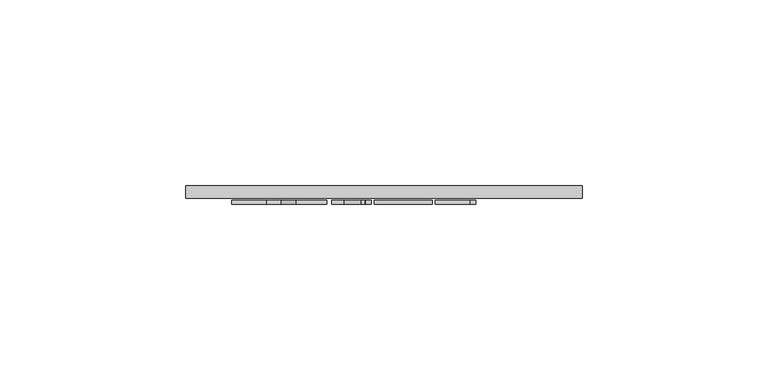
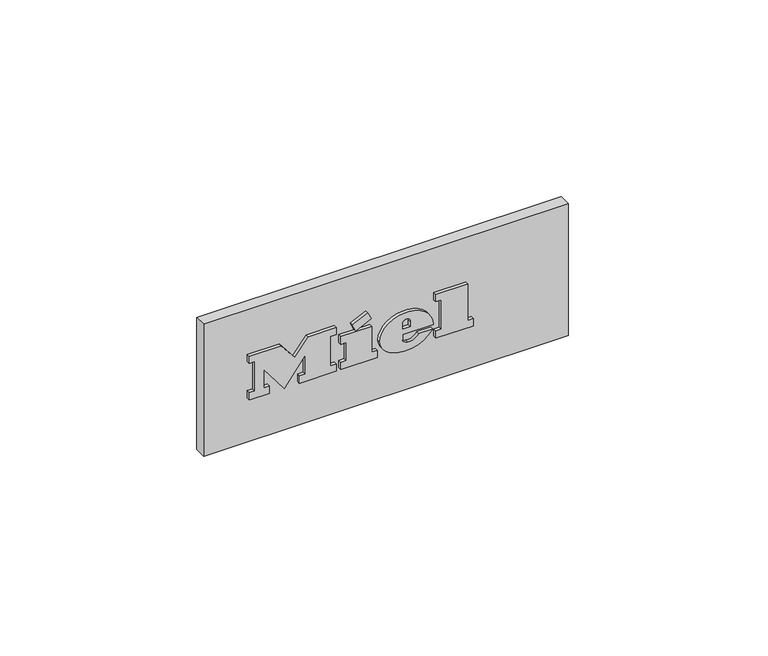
"""IFC4 building model written with IfcOpenShell, lengths in millimetres: proxy geometry, 12535250_USA_HR1432-3_EDST-CLST : 25143281_USA_12535250_HR1432-3_EDST-CLST."""

from ifc_helpers import new_model, si_unit, point, frame, frame_2d, origin, place, context, project, spatial, polyline, circle_curve, ellipse_curve, trimmed, segment, composite_curve, outline, extrude, source, transform, mapped, element, save
from ifc_brep_helpers import plane_surface, cylinder_surface, revolved_surface, extruded_surface, advanced_brep


def specialty_equipment_a4b074ec(model_context):
    return source(origin(), model_context, "Body", "SolidModel", [
        advanced_brep(
        [(3.9955, -675.0, 177.1995), (3.9955, -675.0, 178.563), (13.027, -675.0, 178.563), (-2.687, -675.0, 178.563), (1.0255, -675.0, 174.0), (12.7975, -675.0, 177.1995), (8.7205, -675.0, 177.1995), (5.5075, -675.0, 175.6875), (3.9955, -675.0, 180.291), (3.9955, -675.0, 181.7625), (6.304, -675.0, 181.7625), (6.304, -675.0, 180.291), (3.9955, -674.0, 177.1995), (5.5075, -674.0, 175.6875), (8.7205, -674.0, 177.1995), (12.7975, -674.0, 177.1995), (1.0255, -674.0, 174.0), (-2.687, -674.0, 178.563), (13.027, -674.0, 178.563), (3.9955, -674.0, 178.563), (3.9955, -674.0, 180.291), (6.304, -674.0, 180.291), (6.304, -674.0, 181.7625), (3.9955, -674.0, 181.7625)],
        [
            (0, 1),
            (1, 2),
            (2, 3, ellipse_curve(frame((5.17, -675.0, 178.563), z_axis=(0.0, -1.0, 0.0), x_axis=(-1.0, 0.0, 0.0)), 7.857, 6.4935)),
            (3, 4, circle_curve(frame((2.5375736, -675.0, 179.022), z_axis=(0.0, -1.0, 0.0), x_axis=(0.0, 0.0, -1.0)), 5.2446974)),
            (4, 5, circle_curve(frame((5.0127142, -675.0, 182.586), z_axis=(0.0, -1.0, 0.0), x_axis=(0.0, 0.0, -1.0)), 9.46664)),
            (5, 6),
            (6, 7, circle_curve(frame((6.1674118, -675.0, 178.455), z_axis=(0.0, 1.0, 0.0), x_axis=(0.0, 0.0, -1.0)), 2.8450905)),
            (7, 0, circle_curve(frame((5.5075, -675.0, 177.1995), z_axis=(0.0, 1.0, 0.0), x_axis=(0.0, 0.0, -1.0)), 1.512)),
            (8, 9),
            (9, 10, circle_curve(frame((5.14975, -675.0, 181.7625), z_axis=(0.0, 1.0, 0.0), x_axis=(0.0, 0.0, -1.0)), 1.15425)),
            (10, 11),
            (11, 8),
            (12, 13, circle_curve(frame((5.5075, -674.0, 177.1995), z_axis=(0.0, -1.0, 0.0), x_axis=(0.0, 0.0, -1.0)), 1.512)),
            (13, 14, circle_curve(frame((6.1674118, -674.0, 178.455), z_axis=(0.0, -1.0, 0.0), x_axis=(0.0, 0.0, -1.0)), 2.8450905)),
            (14, 15),
            (15, 16, circle_curve(frame((5.0127142, -674.0, 182.586), z_axis=(0.0, 1.0, 0.0), x_axis=(0.0, 0.0, -1.0)), 9.46664)),
            (16, 17, circle_curve(frame((2.5375736, -674.0, 179.022), z_axis=(0.0, 1.0, 0.0), x_axis=(0.0, 0.0, -1.0)), 5.2446974)),
            (17, 18, ellipse_curve(frame((5.17, -674.0, 178.563), z_axis=(0.0, 1.0, 0.0), x_axis=(-1.0, 0.0, 0.0)), 7.857, 6.4935)),
            (18, 19),
            (19, 12),
            (20, 21),
            (21, 22),
            (22, 23, circle_curve(frame((5.14975, -674.0, 181.7625), z_axis=(0.0, -1.0, 0.0), x_axis=(0.0, 0.0, -1.0)), 1.15425)),
            (23, 20),
            (0, 12),
            (19, 1),
            (18, 2),
            (5, 15),
            (14, 6),
            (17, 3),
            (13, 7),
            (16, 4),
            (8, 20),
            (23, 9),
            (22, 10),
            (21, 11),
        ],
        [
            plane_surface(frame((3.9955, -675.0, 178.563), z_axis=(0.0, -1.0, 0.0), x_axis=(0.0, 0.0, 1.0))),
            plane_surface(frame((3.9955, -674.0, 178.563), z_axis=(0.0, 1.0, 0.0), x_axis=(0.0, 0.0, -1.0))),
            plane_surface(frame((3.9955, -675.0, 177.1995), z_axis=(1.0, 0.0, 0.0), x_axis=(0.0, 1.0, 0.0))),
            plane_surface(frame((3.9955, -675.0, 178.563), z_axis=(0.0, 0.0, -1.0), x_axis=(0.0, 1.0, 0.0))),
            plane_surface(frame((12.7975, -675.0, 177.1995), z_axis=(0.0, 0.0, 1.0), x_axis=(0.0, 1.0, 0.0))),
            extruded_surface(trimmed(ellipse_curve(frame((5.17, -673.0, 178.563), z_axis=(0.0, -1.0, 0.0), x_axis=(-1.0, 0.0, 0.0)), 7.857, 6.4935), [point((13.027, -673.0, 178.563))], [point((-2.687, -673.0, 178.563))], True, "CARTESIAN"), (0.0, -1.0, 0.0), 1.0),
            revolved_surface(polyline([(6.1674118, -674.0, 175.60990950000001), (6.1674118, -675.0, 175.60990950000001)]), (6.1674118, -674.0, 178.455), (0.0, 1.0, 0.0)),
            revolved_surface(polyline([(5.5075, -674.0, 175.6875), (5.5075, -675.0, 175.6875)]), (5.5075, -674.0, 177.1995), (0.0, 1.0, 0.0)),
            cylinder_surface(frame((2.5375736, -674.0, 179.022), z_axis=(0.0, -1.0, 0.0), x_axis=(0.0, 0.0, -1.0)), 5.2446974),
            cylinder_surface(frame((5.0127142, -674.0, 182.586), z_axis=(0.0, -1.0, 0.0), x_axis=(0.0, 0.0, -1.0)), 9.46664),
            plane_surface(frame((3.9955, -675.0, 180.291), z_axis=(1.0, 0.0, 0.0), x_axis=(0.0, 1.0, 0.0))),
            revolved_surface(polyline([(5.14975, -674.0, 180.60825), (5.14975, -675.0, 180.60825)]), (5.14975, -674.0, 181.7625), (0.0, 1.0, 0.0)),
            plane_surface(frame((6.304, -675.0, 181.7625), z_axis=(-1.0, 0.0, 0.0), x_axis=(0.0, 1.0, 0.0))),
            plane_surface(frame((6.304, -675.0, 180.291), z_axis=(0.0, 0.0, 1.0), x_axis=(0.0, 1.0, 0.0))),
        ],
        [
            (0, [[1, 2, 3, 4, 5, 6, 7, 8], [9, 10, 11, 12]]),
            (1, [[13, 14, 15, 16, 17, 18, 19, 20], [21, 22, 23, 24]]),
            (2, [[-1, 25, -20, 26]]),
            (3, [[-2, -26, -19, 27]]),
            (4, [[-6, 28, -15, 29]]),
            (5, [[-3, -27, -18, 30]]),
            (6, [[-7, -29, -14, 31]]),
            (7, [[-8, -31, -13, -25]]),
            (8, [[-4, -30, -17, 32]]),
            (9, [[-5, -32, -16, -28]]),
            (10, [[-9, 33, -24, 34]]),
            (11, [[-10, -34, -23, 35]]),
            (12, [[-11, -35, -22, 36]]),
            (13, [[-12, -36, -21, -33]]),
        ],
    ),
        extrude(outline(polyline([(186.7035, -10.76), (184.5165, -9.734), (186.6495, -5.1575), (188.8365, -6.17), (186.7035, -10.76)])), frame((0.0, -675.0, 0.0), z_axis=(0.0, 1.0, 0.0), x_axis=(0.0, 0.0, 1.0)), (0.0, 0.0, 1.0), 1.0),
        extrude(outline(polyline([(184.2195, -14.0945), (181.803, -14.0945), (181.803, -12.488), (176.268, -12.488), (176.268, -14.0945), (174.0, -14.0945), (174.0, -3.443), (176.268, -3.443), (176.268, -5.009), (184.2195, -5.009), (184.2195, -14.0945)])), frame((0.0, -675.0, 0.0), z_axis=(0.0, 1.0, 0.0), x_axis=(0.0, 0.0, 1.0)), (0.0, 0.0, 1.0), 1.0),
        extrude(outline(polyline([(185.2995, 13.783), (185.2995, 15.403), (176.268, 15.403), (176.268, 13.783), (174.0, 13.783), (174.0, 24.7315), (176.268, 24.7315), (176.268, 23.071), (187.5, 23.071), (187.5, 13.783), (185.2995, 13.783)])), frame((0.0, -675.0, 0.0), z_axis=(0.0, 1.0, 0.0), x_axis=(0.0, 0.0, 1.0)), (0.0, 0.0, 1.0), 1.0),
        extrude(outline(polyline([(185.2995, -41.0), (185.2995, -39.3665), (176.268, -39.3665), (176.268, -41.0), (174.0, -41.0), (174.0, -35.06), (176.268, -35.06), (176.268, -36.68), (181.9756247, -36.68), (174.0, -30.6455), (182.2527223, -24.584), (176.268, -24.584), (176.268, -26.2445), (174.0, -26.2445), (174.0, -15.4715), (176.268, -15.4715), (176.268, -17.186), (185.2995, -17.186), (185.2995, -15.4715), (187.5, -15.4715), (187.5, -23.693), (182.4375, -27.635), (187.5, -31.5905), (187.5, -41.0), (185.2995, -41.0)])), frame((0.0, -675.0, 0.0), z_axis=(0.0, 1.0, 0.0), x_axis=(0.0, 0.0, 1.0)), (0.0, 0.0, 1.0), 1.0),
        extrude(outline(composite_curve([segment(polyline([(-670.0, 160.0), (-673.5, 160.0)]), True, "CONTINUOUS"), segment(trimmed(circle_curve(frame_2d((-464.0137328, 180.5)), 210.4869263), [point((-673.5, 160.0))], [point((-673.5, 201.0))], False, "CARTESIAN"), True, "CONTINUOUS"), segment(polyline([(-673.5, 201.0), (-670.0, 201.0), (-670.0, 160.0)]), True, "CONTINUOUS")], self_intersect=False)), frame((-53.5, 0.0, 0.0), z_axis=(1.0, 0.0, 0.0), x_axis=(0.0, 1.0, 0.0)), (0.0, 0.0, 1.0), 107.0),
    ])


if __name__ == "__main__":
    model = new_model("IFC4")
    model_context = context("Model", 3, world=origin())
    ifc_project = project(units=[si_unit("LENGTHUNIT", "METRE", prefix="MILLI")], contexts=[model_context])
    site = spatial("IfcSite", under=ifc_project)
    building = spatial("IfcBuilding", under=site)
    placement = place(None, origin())
    specialty_equipment_shape = specialty_equipment_a4b074ec(model_context)
    element("IfcBuildingElementProxy", 1, Name="12535250_USA_HR1432-3_EDST-CLST : 25143281_USA_12535250_HR1432-3_EDST-CLST", ObjectType="12535250_USA_HR1432-3_EDST-CLST : 25143281_USA_12535250_HR1432-3_EDST-CLST", at=placement, inside=building, context=model_context, shape_type="MappedRepresentation", body=[
        mapped(specialty_equipment_shape, transform((0.0, 0.0, 0.0), x_axis=(1.0, 0.0, 0.0), y_axis=(0.0, 1.0, 0.0), z_axis=(0.0, 0.0, 1.0))),
    ])
    save(model, "model.ifc")
